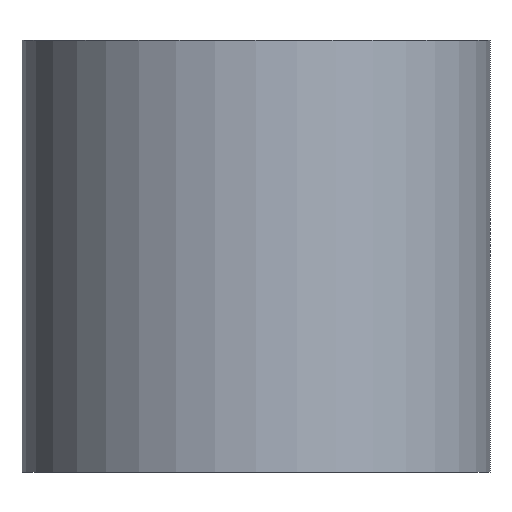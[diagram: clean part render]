
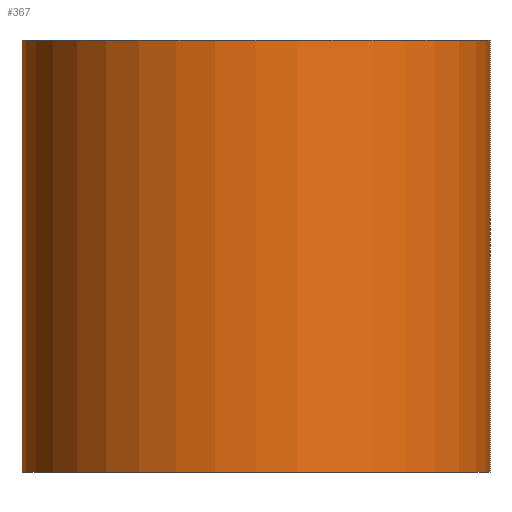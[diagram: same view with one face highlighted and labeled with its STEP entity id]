
A CAD part, front view. The second image highlights one B-rep face of the part: STEP entity #367.
In plain terms, the highlighted cylindrical face has radius 13 mm (diameter 26 mm), a full revolution.
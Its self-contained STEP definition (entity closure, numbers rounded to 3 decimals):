
#248=CARTESIAN_POINT('',(0.0,0.0,0.0));
#249=DIRECTION('',(0.0,0.0,1.0));
#250=DIRECTION('',(-1.0,0.0,0.0));
#251=AXIS2_PLACEMENT_3D('',#248,#249,#250);
#252=CYLINDRICAL_SURFACE('',#251,13.0);
#253=CARTESIAN_POINT('',(13.0,0.,12.));
#254=VERTEX_POINT('',#253);
#255=CARTESIAN_POINT('',(0.0,0.0,12.));
#256=DIRECTION('',(0.0,0.0,-1.0));
#257=DIRECTION('',(-1.0,0.0,0.0));
#258=AXIS2_PLACEMENT_3D('',#255,#256,#257);
#259=CIRCLE('',#258,13.0);
#260=EDGE_CURVE('',#254,#254,#259,.T.);
#261=ORIENTED_EDGE('',*,*,#260,.T.);
#262=EDGE_LOOP('',(#261));
#263=FACE_OUTER_BOUND('',#262,.T.);
#264=CARTESIAN_POINT('',(13.0,0.,-12.));
#265=VERTEX_POINT('',#264);
#266=CARTESIAN_POINT('',(0.0,0.0,-12.));
#267=DIRECTION('',(0.0,0.0,1.0));
#268=DIRECTION('',(-1.0,0.0,0.0));
#269=AXIS2_PLACEMENT_3D('',#266,#267,#268);
#270=CIRCLE('',#269,13.0);
#271=EDGE_CURVE('',#265,#265,#270,.T.);
#272=ORIENTED_EDGE('',*,*,#271,.T.);
#273=EDGE_LOOP('',(#272));
#274=FACE_BOUND('',#273,.T.);
#275=CARTESIAN_POINT('',(-7.5,10.618,0.0));
#276=VERTEX_POINT('',#275);
#277=CARTESIAN_POINT('',(-7.5,10.618,0.));
#278=CARTESIAN_POINT('',(-7.5,10.618,0.702));
#279=CARTESIAN_POINT('',(-7.399,10.692,1.426));
#280=CARTESIAN_POINT('',(-7.194,10.828,2.119));
#281=CARTESIAN_POINT('',(-6.955,10.987,2.932));
#282=CARTESIAN_POINT('',(-6.575,11.228,3.7));
#283=CARTESIAN_POINT('',(-6.097,11.481,4.367));
#284=CARTESIAN_POINT('',(-5.905,11.583,4.635));
#285=CARTESIAN_POINT('',(-5.698,11.687,4.887));
#286=CARTESIAN_POINT('',(-5.481,11.788,5.119));
#287=CARTESIAN_POINT('',(-5.305,11.87,5.308));
#288=CARTESIAN_POINT('',(-5.122,11.95,5.485));
#289=CARTESIAN_POINT('',(-4.924,12.031,5.657));
#290=CARTESIAN_POINT('',(-4.352,12.266,6.156));
#291=CARTESIAN_POINT('',(-3.672,12.494,6.589));
#292=CARTESIAN_POINT('',(-2.933,12.665,6.903));
#293=CARTESIAN_POINT('',(-2.247,12.824,7.194));
#294=CARTESIAN_POINT('',(-1.509,12.933,7.384));
#295=CARTESIAN_POINT('',(-0.776,12.977,7.46));
#296=CARTESIAN_POINT('',(-0.487,12.994,7.49));
#297=CARTESIAN_POINT('',(-0.201,13.002,7.503));
#298=CARTESIAN_POINT('',(0.083,13.,7.5));
#299=CARTESIAN_POINT('',(0.826,12.995,7.491));
#300=CARTESIAN_POINT('',(1.597,12.923,7.368));
#301=CARTESIAN_POINT('',(2.327,12.79,7.13));
#302=CARTESIAN_POINT('',(2.997,12.668,6.911));
#303=CARTESIAN_POINT('',(3.633,12.497,6.597));
#304=CARTESIAN_POINT('',(4.2,12.303,6.214));
#305=CARTESIAN_POINT('',(4.56,12.18,5.97));
#306=CARTESIAN_POINT('',(4.892,12.049,5.7));
#307=CARTESIAN_POINT('',(5.191,11.918,5.413));
#308=CARTESIAN_POINT('',(5.374,11.839,5.238));
#309=CARTESIAN_POINT('',(5.547,11.759,5.055));
#310=CARTESIAN_POINT('',(5.714,11.677,4.858));
#311=CARTESIAN_POINT('',(6.23,11.425,4.251));
#312=CARTESIAN_POINT('',(6.668,11.166,3.533));
#313=CARTESIAN_POINT('',(6.975,10.97,2.756));
#314=CARTESIAN_POINT('',(7.213,10.819,2.154));
#315=CARTESIAN_POINT('',(7.374,10.707,1.514));
#316=CARTESIAN_POINT('',(7.449,10.654,0.874));
#317=CARTESIAN_POINT('',(7.489,10.626,0.532));
#318=CARTESIAN_POINT('',(7.505,10.615,0.193));
#319=CARTESIAN_POINT('',(7.499,10.619,-0.146));
#320=CARTESIAN_POINT('',(7.485,10.629,-0.854));
#321=CARTESIAN_POINT('',(7.367,10.714,-1.583));
#322=CARTESIAN_POINT('',(7.146,10.859,-2.276));
#323=CARTESIAN_POINT('',(6.889,11.029,-3.083));
#324=CARTESIAN_POINT('',(6.492,11.276,-3.843));
#325=CARTESIAN_POINT('',(6.002,11.532,-4.498));
#326=CARTESIAN_POINT('',(5.811,11.631,-4.753));
#327=CARTESIAN_POINT('',(5.606,11.732,-4.992));
#328=CARTESIAN_POINT('',(5.392,11.829,-5.213));
#329=CARTESIAN_POINT('',(5.223,11.906,-5.388));
#330=CARTESIAN_POINT('',(5.047,11.982,-5.554));
#331=CARTESIAN_POINT('',(4.857,12.058,-5.715));
#332=CARTESIAN_POINT('',(4.291,12.287,-6.196));
#333=CARTESIAN_POINT('',(3.625,12.506,-6.612));
#334=CARTESIAN_POINT('',(2.903,12.672,-6.915));
#335=CARTESIAN_POINT('',(2.257,12.82,-7.187));
#336=CARTESIAN_POINT('',(1.565,12.924,-7.368));
#337=CARTESIAN_POINT('',(0.875,12.971,-7.449));
#338=CARTESIAN_POINT('',(0.569,12.991,-7.485));
#339=CARTESIAN_POINT('',(0.264,13.001,-7.501));
#340=CARTESIAN_POINT('',(-0.037,13.,-7.5));
#341=CARTESIAN_POINT('',(-0.76,12.998,-7.496));
#342=CARTESIAN_POINT('',(-1.511,12.932,-7.384));
#343=CARTESIAN_POINT('',(-2.227,12.808,-7.162));
#344=CARTESIAN_POINT('',(-3.005,12.673,-6.92));
#345=CARTESIAN_POINT('',(-3.74,12.469,-6.548));
#346=CARTESIAN_POINT('',(-4.38,12.24,-6.088));
#347=CARTESIAN_POINT('',(-4.696,12.127,-5.861));
#348=CARTESIAN_POINT('',(-4.988,12.008,-5.613));
#349=CARTESIAN_POINT('',(-5.253,11.891,-5.353));
#350=CARTESIAN_POINT('',(-5.446,11.806,-5.164));
#351=CARTESIAN_POINT('',(-5.63,11.719,-4.963));
#352=CARTESIAN_POINT('',(-5.805,11.632,-4.748));
#353=CARTESIAN_POINT('',(-6.33,11.37,-4.107));
#354=CARTESIAN_POINT('',(-6.767,11.106,-3.349));
#355=CARTESIAN_POINT('',(-7.059,10.916,-2.533));
#356=CARTESIAN_POINT('',(-7.299,10.762,-1.866));
#357=CARTESIAN_POINT('',(-7.442,10.659,-1.16));
#358=CARTESIAN_POINT('',(-7.486,10.629,-0.464));
#359=CARTESIAN_POINT('',(-7.495,10.622,-0.309));
#360=CARTESIAN_POINT('',(-7.5,10.618,-0.154));
#361=CARTESIAN_POINT('',(-7.5,10.618,0.));
#362=B_SPLINE_CURVE_WITH_KNOTS('',3,(#277,#278,#279,#280,#281,#282,#283,#284,#285,#286,#287,#288,#289,#290,#291,#292,#293,#294,#295,#296,#297,#298,#299,#300,#301,#302,#303,#304,#305,#306,#307,#308,#309,#310,#311,#312,#313,#314,#315,#316,#317,#318,#319,#320,#321,#322,#323,#324,#325,#326,#327,#328,#329,#330,#331,#332,#333,#334,#335,#336,#337,#338,#339,#340,#341,#342,#343,#344,#345,#346,#347,#348,#349,#350,#351,#352,#353,#354,#355,#356,#357,#358,#359,#360,#361),.UNSPECIFIED.,.T.,.U.,(4,3,3,3,3,3,3,3,3,3,3,3,3,3,3,3,3,3,3,3,3,3,3,3,3,3,3,3,4),(0.0,0.21,0.457,0.556,0.636,0.869,1.086,1.171,1.393,1.597,1.726,1.805,2.049,2.238,2.34,2.551,2.798,2.895,2.971,3.198,3.401,3.491,3.708,3.943,4.06,4.144,4.397,4.604,4.65),.UNSPECIFIED.);
#363=EDGE_CURVE('',#276,#276,#362,.T.);
#364=ORIENTED_EDGE('',*,*,#363,.F.);
#365=EDGE_LOOP('',(#364));
#366=FACE_BOUND('',#365,.T.);
#367=ADVANCED_FACE('',(#263,#274,#366),#252,.T.);
